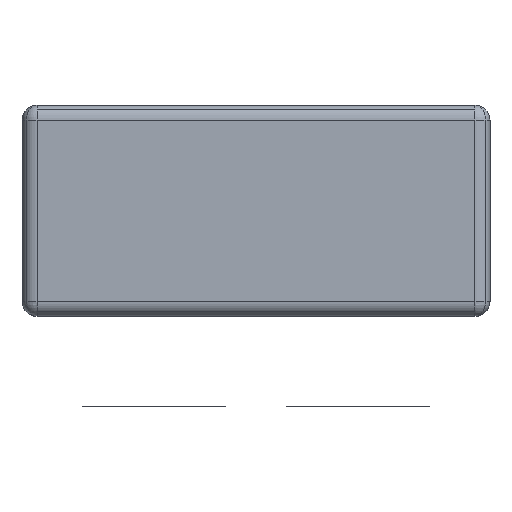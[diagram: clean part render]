
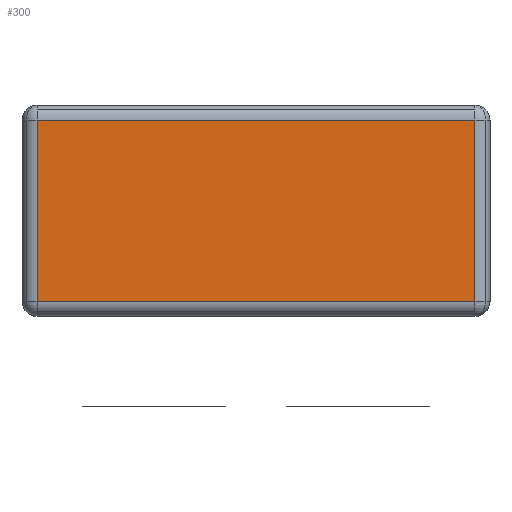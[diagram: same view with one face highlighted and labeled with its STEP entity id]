
A CAD part, front view. The second image highlights one B-rep face of the part: STEP entity #300.
In plain terms, the highlighted planar face has unit normal (0, -1, 0).
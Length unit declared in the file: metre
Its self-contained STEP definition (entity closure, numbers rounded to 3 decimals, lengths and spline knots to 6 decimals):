
#300=ADVANCED_FACE('0:402',(#760),#761,.T.);
#760=FACE_OUTER_BOUND('',#1257,.T.);
#761=PLANE('',#1258);
#1257=EDGE_LOOP('',(#3049,#3050,#3051,#3052));
#1258=AXIS2_PLACEMENT_3D('',#3053,#3054,#3055);
#3049=ORIENTED_EDGE('',*,*,#3379,.F.);
#3050=ORIENTED_EDGE('',*,*,#3793,.F.);
#3051=ORIENTED_EDGE('',*,*,#3794,.F.);
#3052=ORIENTED_EDGE('',*,*,#3273,.F.);
#3053=CARTESIAN_POINT('',(0.00775,0.0,0.0));
#3054=DIRECTION('',(0.0,-1.0,0.0));
#3055=DIRECTION('',(1.0,0.0,0.0));
#3273=EDGE_CURVE('4:33',#3909,#3911,#3912,.T.);
#3379=EDGE_CURVE('4:530',#4109,#3909,#4116,.T.);
#3793=EDGE_CURVE('4:24',#3888,#4109,#4745,.T.);
#3794=EDGE_CURVE('4:497',#3911,#3888,#4746,.T.);
#3888=VERTEX_POINT('',#4893);
#3909=VERTEX_POINT('',#4921);
#3911=VERTEX_POINT('',#4923);
#3912=LINE('',#4924,#4925);
#4109=VERTEX_POINT('',#5170);
#4116=LINE('',#5178,#5179);
#4745=LINE('',#6052,#6053);
#4746=LINE('',#6054,#6055);
#4893=CARTESIAN_POINT('',(0.015,0.0,0.0025));
#4921=CARTESIAN_POINT('',(0.0005,0.0,-0.0035));
#4923=CARTESIAN_POINT('',(0.0005,0.0,0.0025));
#4924=CARTESIAN_POINT('',(0.0005,0.0,0.0));
#4925=VECTOR('',#6256,1.0);
#5170=CARTESIAN_POINT('',(0.015,0.0,-0.0035));
#5178=CARTESIAN_POINT('',(0.003875,0.0,-0.0035));
#5179=VECTOR('',#6474,1.0);
#6052=CARTESIAN_POINT('',(0.015,0.0,0.0));
#6053=VECTOR('',#7262,1.0);
#6054=CARTESIAN_POINT('',(0.003875,0.0,0.0025));
#6055=VECTOR('',#7263,1.0);
#6256=DIRECTION('',(0.0,0.0,1.0));
#6474=DIRECTION('',(-1.0,0.0,0.0));
#7262=DIRECTION('',(0.0,-0.0,-1.0));
#7263=DIRECTION('',(1.0,-0.0,-0.0));
